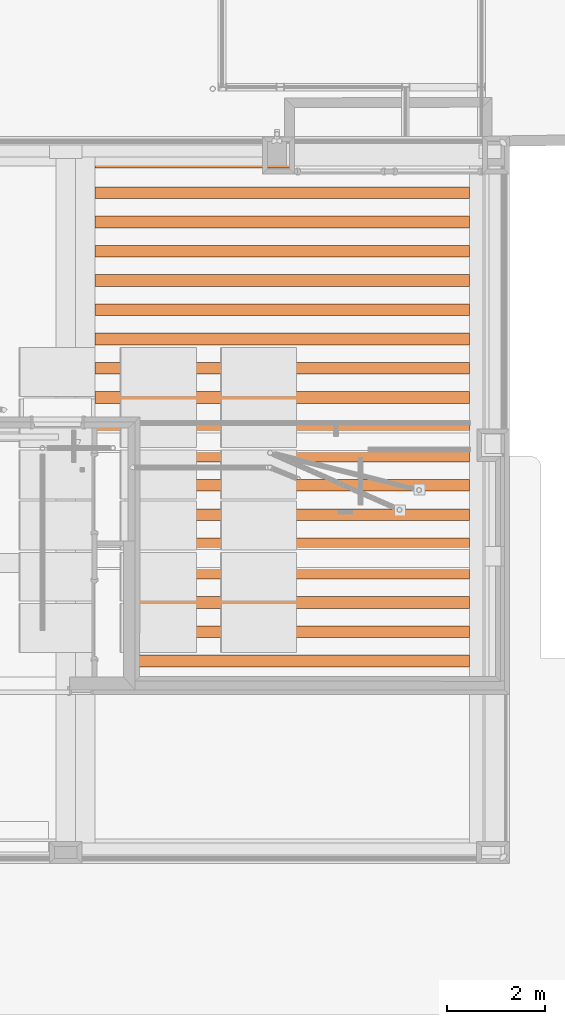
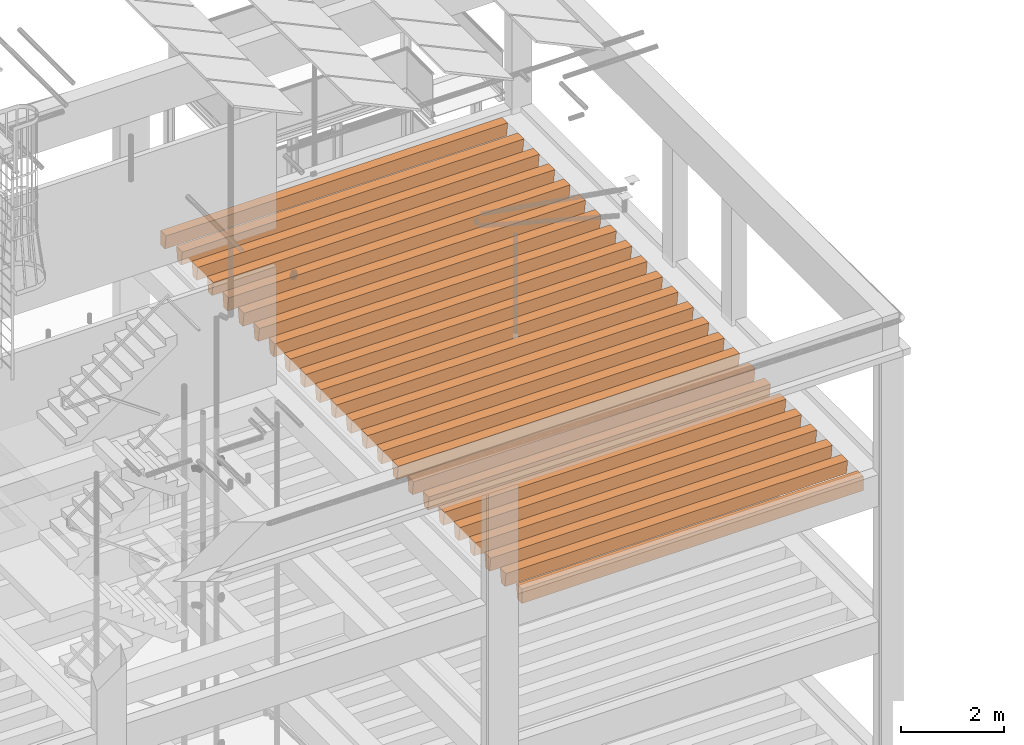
# One storey, part 106 of 106: 1 proxy.
"""IFC2X3 building model written with IfcOpenShell, lengths in metres."""

import ifcopenshell
import ifcopenshell.guid

model = None  # the IFC model being written
_history = None  # IfcOwnerHistory: only IFC2X3 demands one
_inside = {}  # id of a spatial element -> (the spatial element, [elements in it])
_under = {}  # id of a project, library or spatial element -> (it, [spatial elements below it])
_declared = {}  # id of a project -> (the project, [libraries it declares])
_typed = {}  # id of a type object -> (the type object, [elements of that type])
_made_of = {}  # id of a material, layer set ... -> (it, [elements and type objects made of it])


def new_model(schema):
    """Start an empty IFC model of exactly this schema.

    Asked for "IFC4X3", IfcOpenShell would pick the latest addendum, in which some entities
    have other attributes; the version numbers below select the first issue.
    IFC2X3 requires an IfcOwnerHistory on every rooted entity: one is made here for all.
    """
    global model, _history
    if schema == "IFC4X3":
        model = ifcopenshell.file(schema_version=(4, 3, 0, 0))
    else:
        model = ifcopenshell.file(schema=schema)
    _inside.clear()
    _under.clear()
    _declared.clear()
    _typed.clear()
    _made_of.clear()
    _history = None
    if model.schema == "IFC2X3":
        org = make("IfcOrganization", Name="unknown")
        user = make(
            "IfcPersonAndOrganization",
            ThePerson=make("IfcPerson", FamilyName="unknown"),
            TheOrganization=org,
        )
        app = make(
            "IfcApplication",
            ApplicationDeveloper=org,
            Version="unknown",
            ApplicationFullName="unknown",
            ApplicationIdentifier="unknown",
        )
        _history = make(
            "IfcOwnerHistory",
            OwningUser=user,
            OwningApplication=app,
            ChangeAction="ADDED",
            CreationDate=0,
        )
    return model


def make(cls, **values):
    """One entity of the class cls with the attributes given. An attribute that is None is left unset."""
    return model.create_entity(
        cls, **{name: value for name, value in values.items() if value is not None}
    )


def entity(cls, *values):
    """Any entity or typed value of the class cls, its attributes in the order of the schema. None: left unset."""
    e = model.create_entity(cls)
    for i, value in enumerate(values):
        if value is not None:
            e[i] = value
    return e


def rooted(cls, **values):
    """An entity with a GlobalId (a new one), such as an element, a storey or a relation."""
    return make(cls, GlobalId=ifcopenshell.guid.new(), OwnerHistory=_history, **values)


def si_unit(unit_type, name, prefix=None):
    """IfcSIUnit, for example si_unit("LENGTHUNIT", "METRE", prefix="MILLI")."""
    return make("IfcSIUnit", UnitType=unit_type, Prefix=prefix, Name=name)


def converted_unit(unit_type, name, factor, base, dimensions=None, offset=None):
    """IfcConversionBasedUnit, such as the inch: factor (a typed value) times the base unit."""
    return make(
        "IfcConversionBasedUnit"
        if offset is None
        else "IfcConversionBasedUnitWithOffset",
        ConversionOffset=offset,
        Dimensions=None
        if dimensions is None
        else entity("IfcDimensionalExponents", *dimensions),
        UnitType=unit_type,
        Name=name,
        ConversionFactor=make(
            "IfcMeasureWithUnit", ValueComponent=factor, UnitComponent=base
        ),
    )


def derived_unit(unit_type, elements):
    """IfcDerivedUnit: a product of units, each with its exponent."""
    return make(
        "IfcDerivedUnit",
        Elements=[
            make("IfcDerivedUnitElement", Unit=unit, Exponent=power)
            for unit, power in elements
        ],
        UnitType=unit_type,
    )


def money_unit(currency):
    """IfcMonetaryUnit."""
    return make("IfcMonetaryUnit", Currency=currency)


def assignment(units):
    """IfcUnitAssignment: the units of a project."""
    return None if units is None else make("IfcUnitAssignment", Units=units)


def point(xyz):
    """IfcCartesianPoint."""
    return None if xyz is None else make("IfcCartesianPoint", Coordinates=xyz)


def direction(xyz):
    """IfcDirection."""
    return None if xyz is None else make("IfcDirection", DirectionRatios=xyz)


def frame(location, z_axis=None, x_axis=None):
    """IfcAxis2Placement3D, a coordinate frame: its origin and axes. An axis left out is left unset."""
    return make(
        "IfcAxis2Placement3D",
        Location=point(location),
        Axis=direction(z_axis),
        RefDirection=direction(x_axis),
    )


def origin_with_axes():
    """The frame at (0, 0, 0) with the z axis (0, 0, 1) and the x axis (1, 0, 0) written out."""
    return frame((0.0, 0.0, 0.0), z_axis=(0.0, 0.0, 1.0), x_axis=(1.0, 0.0, 0.0))


def place(relative_to, where):
    """IfcLocalPlacement: puts the frame where relative to a parent placement (None: the world)."""
    return make(
        "IfcLocalPlacement", PlacementRelTo=relative_to, RelativePlacement=where
    )


def context(
    kind, dimensions, precision=None, world=None, true_north=None, identifier=None
):
    """IfcGeometricRepresentationContext, for example the 3D "Model" context."""
    return make(
        "IfcGeometricRepresentationContext",
        ContextIdentifier=identifier,
        ContextType=kind,
        CoordinateSpaceDimension=dimensions,
        Precision=precision,
        WorldCoordinateSystem=world,
        TrueNorth=true_north,
    )


def subcontext(parent, identifier, kind, view, scale=None):
    """IfcGeometricRepresentationSubContext, for example "Body" below "Model"."""
    return make(
        "IfcGeometricRepresentationSubContext",
        ContextIdentifier=identifier,
        ContextType=kind,
        ParentContext=parent,
        TargetScale=scale,
        TargetView=view,
    )


def project(units=None, contexts=None):
    """IfcProject with its units and contexts."""
    return rooted(
        "IfcProject",
        Name="project",
        RepresentationContexts=contexts,
        UnitsInContext=assignment(units),
    )


def spatial(cls, under=None, at=None, **own):
    """A site, building, storey or space (cls), placed at a placement, below another one or the project."""
    s = rooted(cls, ObjectPlacement=at, **own)
    if under is not None:
        _under.setdefault(under.id(), (under, []))[1].append(s)
    return s


def faces_of(points, faces, orient=None, outer=None):
    """IfcFace entities. A face is a list of loops; a loop is a list of indices into points, from 0.

    orient and outer hold one flag for each loop. By default every Orientation is true, the
    first loop of a face is its IfcFaceOuterBound and the others are IfcFaceBound.
    """
    made = []
    for i, loops in enumerate(faces):
        bounds = []
        for j, loop in enumerate(loops):
            is_outer = j == 0 if outer is None else outer[i][j]
            bounds.append(
                make(
                    "IfcFaceOuterBound" if is_outer else "IfcFaceBound",
                    Bound=make("IfcPolyLoop", Polygon=[points[k] for k in loop]),
                    Orientation=True if orient is None else orient[i][j],
                )
            )
        made.append(make("IfcFace", Bounds=bounds))
    return made


def faceted_brep(points, faces, orient=None, outer=None, voids=None):
    """IfcFacetedBrep: a solid bounded by flat faces; with voids (closed shells), ...WithVoids."""
    shared = [point(p) for p in points]
    hull = make("IfcClosedShell", CfsFaces=faces_of(shared, faces, orient, outer))
    if voids is None:
        return make("IfcFacetedBrep", Outer=hull)
    return make(
        "IfcFacetedBrepWithVoids",
        Outer=hull,
        Voids=[
            make(cls, CfsFaces=faces_of(shared, fs, o, b)) for cls, fs, o, b in voids
        ],
    )


def shape(context_of_items, identifier, shape_type, items):
    """IfcShapeRepresentation: the items that make up one representation, for example the "Body"."""
    return make(
        "IfcShapeRepresentation",
        ContextOfItems=context_of_items,
        RepresentationIdentifier=identifier,
        RepresentationType=shape_type,
        Items=items,
    )


def made_of(thing, what):
    """Note that an element or type object is made of a material, layer set ...; save() writes the relation."""
    if what is not None:
        _made_of.setdefault(what.id(), (what, []))[1].append(thing)
    return thing


def element(
    cls,
    number,
    at=None,
    inside=None,
    cuts=None,
    type_object=None,
    material=None,
    context=None,
    identifier="Body",
    shape_type=None,
    held_by="IfcProductDefinitionShape",
    body=None,
    shapes=None,
    **own,
):
    """One element of the class cls, such as IfcWall. Its Tag is "e" and its number.

    at: its placement. inside: the storey or other place that contains it. cuts: it is an
    opening in that element (IfcRelVoidsElement). A single representation is given by context,
    identifier, shape_type and body (its items); several are given by shapes. held_by: the class
    of the entity that holds the representations. save() writes the other relations.
    """
    e = rooted(cls, Tag="e%d" % number, ObjectPlacement=at, **own)
    if body is not None:
        shapes = [shape(context, identifier, shape_type, body)]
    if shapes is not None:
        e.Representation = make(held_by, Representations=shapes)
    if inside is not None:
        _inside.setdefault(inside.id(), (inside, []))[1].append(e)
    if cuts is not None:
        rooted(
            "IfcRelVoidsElement", RelatingBuildingElement=cuts, RelatedOpeningElement=e
        )
    if type_object is not None:
        _typed.setdefault(type_object.id(), (type_object, []))[1].append(e)
    return made_of(e, material)


def aggregate(whole, parts):
    """IfcRelAggregates: a whole, such as a stair, and the parts it consists of."""
    return rooted("IfcRelAggregates", RelatingObject=whole, RelatedObjects=parts)


def save(model, path):
    """Write the relations noted so far, then the file.

    IfcRelAggregates (storeys below a building ...), IfcRelContainedInSpatialStructure (elements
    in a storey), IfcRelDefinesByType, IfcRelAssociatesMaterial and IfcRelDeclares: one each for
    every whole, place, type object, material and project.
    """
    for whole, parts in _under.values():
        aggregate(whole, parts)
    for where, things in _inside.values():
        rooted(
            "IfcRelContainedInSpatialStructure",
            RelatedElements=things,
            RelatingStructure=where,
        )
    for kind, things in _typed.values():
        rooted("IfcRelDefinesByType", RelatedObjects=things, RelatingType=kind)
    for what, things in _made_of.values():
        rooted("IfcRelAssociatesMaterial", RelatedObjects=things, RelatingMaterial=what)
    for by, libraries in _declared.values():
        rooted("IfcRelDeclares", RelatingContext=by, RelatedDefinitions=libraries)
    model.write(path)


model = new_model("IFC2X3")

# Units and contexts
model_context = context("Model", 3, precision=1e-05, world=origin_with_axes(), true_north=direction((0.0, 1.0)))
body_context = subcontext(model_context, "Body", "Model", "MODEL_VIEW", scale=1.0)
ifc_project = project(units=[si_unit("LENGTHUNIT", "METRE"), si_unit("AREAUNIT", "SQUARE_METRE"), si_unit("VOLUMEUNIT", "CUBIC_METRE"), si_unit("ABSORBEDDOSEUNIT", "GRAY"), si_unit("AMOUNTOFSUBSTANCEUNIT", "MOLE"), si_unit("DOSEEQUIVALENTUNIT", "SIEVERT"), si_unit("ELECTRICCAPACITANCEUNIT", "FARAD"), si_unit("ELECTRICCHARGEUNIT", "COULOMB"), si_unit("ELECTRICCONDUCTANCEUNIT", "SIEMENS"), si_unit("ELECTRICCURRENTUNIT", "AMPERE"), si_unit("ELECTRICRESISTANCEUNIT", "OHM"), si_unit("ELECTRICVOLTAGEUNIT", "VOLT"), si_unit("ENERGYUNIT", "JOULE"), si_unit("FORCEUNIT", "NEWTON"), si_unit("FREQUENCYUNIT", "HERTZ"), si_unit("ILLUMINANCEUNIT", "LUX"), si_unit("INDUCTANCEUNIT", "HENRY"), si_unit("LUMINOUSFLUXUNIT", "LUMEN"), si_unit("LUMINOUSINTENSITYUNIT", "CANDELA"), si_unit("MAGNETICFLUXDENSITYUNIT", "TESLA"), si_unit("MAGNETICFLUXUNIT", "WEBER"), si_unit("MASSUNIT", "GRAM"), converted_unit("PLANEANGLEUNIT", "degree", entity("IfcReal", 0.0174532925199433), si_unit("PLANEANGLEUNIT", "RADIAN"), dimensions=[0, 0, 0, 0, 0, 0, 0]), si_unit("POWERUNIT", "WATT"), si_unit("PRESSUREUNIT", "PASCAL"), si_unit("RADIOACTIVITYUNIT", "BECQUEREL"), si_unit("SOLIDANGLEUNIT", "STERADIAN"), si_unit("THERMODYNAMICTEMPERATUREUNIT", "KELVIN"), si_unit("TIMEUNIT", "SECOND"), derived_unit("ACCELERATIONUNIT", [(si_unit("LENGTHUNIT", "METRE"), 1), (si_unit("TIMEUNIT", "SECOND"), -2)]), derived_unit("ANGULARVELOCITYUNIT", [(converted_unit("PLANEANGLEUNIT", "degree", entity("IfcReal", 0.0174532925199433), si_unit("PLANEANGLEUNIT", "RADIAN"), dimensions=[0, 0, 0, 0, 0, 0, 0]), 1), (si_unit("TIMEUNIT", "SECOND"), -1)]), derived_unit("CURVATUREUNIT", [(converted_unit("PLANEANGLEUNIT", "degree", entity("IfcReal", 0.0174532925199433), si_unit("PLANEANGLEUNIT", "RADIAN"), dimensions=[0, 0, 0, 0, 0, 0, 0]), 1), (si_unit("LENGTHUNIT", "METRE"), -1)]), derived_unit("DYNAMICVISCOSITYUNIT", [(si_unit("PRESSUREUNIT", "PASCAL"), 1), (si_unit("TIMEUNIT", "SECOND"), 1)]), derived_unit("HEATFLUXDENSITYUNIT", [(si_unit("POWERUNIT", "WATT"), 1), (si_unit("LENGTHUNIT", "METRE"), -2)]), derived_unit("HEATINGVALUEUNIT", [(si_unit("ENERGYUNIT", "JOULE"), 1), (si_unit("MASSUNIT", "GRAM"), -1)]), derived_unit("INTEGERCOUNTRATEUNIT", [(si_unit("TIMEUNIT", "SECOND"), -1)]), derived_unit("IONCONCENTRATIONUNIT", [(si_unit("MASSUNIT", "GRAM"), 1), (si_unit("VOLUMEUNIT", "CUBIC_METRE"), -1)]), derived_unit("ISOTHERMALMOISTURECAPACITYUNIT", [(si_unit("VOLUMEUNIT", "CUBIC_METRE"), 1), (si_unit("MASSUNIT", "GRAM"), -1)]), derived_unit("KINEMATICVISCOSITYUNIT", [(si_unit("AREAUNIT", "SQUARE_METRE"), 1), (si_unit("TIMEUNIT", "SECOND"), -1)]), derived_unit("LINEARFORCEUNIT", [(si_unit("FORCEUNIT", "NEWTON"), 1), (si_unit("LENGTHUNIT", "METRE"), -1)]), derived_unit("LINEARMOMENTUNIT", [(si_unit("FORCEUNIT", "NEWTON"), 1), (si_unit("LENGTHUNIT", "METRE"), -1)]), derived_unit("LINEARSTIFFNESSUNIT", [(si_unit("FORCEUNIT", "NEWTON"), 1), (si_unit("LENGTHUNIT", "METRE"), -1)]), derived_unit("LINEARVELOCITYUNIT", [(si_unit("LENGTHUNIT", "METRE"), 1), (si_unit("TIMEUNIT", "SECOND"), -1)]), derived_unit("LUMINOUSINTENSITYDISTRIBUTIONUNIT", [(si_unit("LUMINOUSINTENSITYUNIT", "CANDELA"), 1), (si_unit("LUMINOUSFLUXUNIT", "LUMEN"), -1)]), derived_unit("MASSDENSITYUNIT", [(si_unit("MASSUNIT", "GRAM"), 1), (si_unit("VOLUMEUNIT", "CUBIC_METRE"), -1)]), derived_unit("MASSFLOWRATEUNIT", [(si_unit("MASSUNIT", "GRAM"), 1), (si_unit("TIMEUNIT", "SECOND"), -1)]), derived_unit("MASSPERLENGTHUNIT", [(si_unit("MASSUNIT", "GRAM"), 1), (si_unit("LENGTHUNIT", "METRE"), -1)]), derived_unit("MODULUSOFELASTICITYUNIT", [(si_unit("FORCEUNIT", "NEWTON"), 1), (si_unit("AREAUNIT", "SQUARE_METRE"), -1)]), derived_unit("MODULUSOFLINEARSUBGRADEREACTIONUNIT", [(si_unit("FORCEUNIT", "NEWTON"), 1), (si_unit("LENGTHUNIT", "METRE"), -2)]), derived_unit("MODULUSOFROTATIONALSUBGRADEREACTIONUNIT", [(si_unit("FORCEUNIT", "NEWTON"), 1), (si_unit("LENGTHUNIT", "METRE"), 1)]), derived_unit("MODULUSOFSUBGRADEREACTIONUNIT", [(si_unit("FORCEUNIT", "NEWTON"), 1), (si_unit("VOLUMEUNIT", "CUBIC_METRE"), -1)]), derived_unit("MOISTUREDIFFUSIVITYUNIT", [(si_unit("VOLUMEUNIT", "CUBIC_METRE"), 1), (si_unit("TIMEUNIT", "SECOND"), -1)]), derived_unit("MOLECULARWEIGHTUNIT", [(si_unit("MASSUNIT", "GRAM"), 1), (si_unit("AMOUNTOFSUBSTANCEUNIT", "MOLE"), -1)]), derived_unit("PLANARFORCEUNIT", [(si_unit("FORCEUNIT", "NEWTON"), 1), (si_unit("LENGTHUNIT", "METRE"), -2)]), derived_unit("ROTATIONALFREQUENCYUNIT", [(si_unit("TIMEUNIT", "SECOND"), -1)]), derived_unit("ROTATIONALMASSUNIT", [(si_unit("MASSUNIT", "GRAM"), 1), (si_unit("LENGTHUNIT", "METRE"), 2)]), derived_unit("ROTATIONALSTIFFNESSUNIT", [(si_unit("FORCEUNIT", "NEWTON"), 1), (si_unit("LENGTHUNIT", "METRE"), 1), (converted_unit("PLANEANGLEUNIT", "degree", entity("IfcReal", 0.0174532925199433), si_unit("PLANEANGLEUNIT", "RADIAN"), dimensions=[0, 0, 0, 0, 0, 0, 0]), -1)]), derived_unit("SECTIONAREAINTEGRALUNIT", [(si_unit("LENGTHUNIT", "METRE"), 5)]), derived_unit("SECTIONMODULUSUNIT", [(si_unit("LENGTHUNIT", "METRE"), 3)]), derived_unit("SHEARMODULUSUNIT", [(si_unit("FORCEUNIT", "NEWTON"), 1), (si_unit("AREAUNIT", "SQUARE_METRE"), -1)]), derived_unit("SOUNDPOWERUNIT", [(si_unit("ENERGYUNIT", "JOULE"), 1), (si_unit("TIMEUNIT", "SECOND"), -1)]), derived_unit("SPECIFICHEATCAPACITYUNIT", [(si_unit("FORCEUNIT", "NEWTON"), 1), (si_unit("MASSUNIT", "GRAM"), -1), (si_unit("THERMODYNAMICTEMPERATUREUNIT", "KELVIN"), -1)]), derived_unit("TEMPERATUREGRADIENTUNIT", [(si_unit("THERMODYNAMICTEMPERATUREUNIT", "KELVIN"), 1), (si_unit("LENGTHUNIT", "METRE"), -1)]), derived_unit("THERMALADMITTANCEUNIT", [(si_unit("POWERUNIT", "WATT"), 1), (si_unit("AREAUNIT", "SQUARE_METRE"), -1), (si_unit("THERMODYNAMICTEMPERATUREUNIT", "KELVIN"), -1)]), derived_unit("THERMALCONDUCTANCEUNIT", [(si_unit("POWERUNIT", "WATT"), 1), (si_unit("LENGTHUNIT", "METRE"), -1), (si_unit("THERMODYNAMICTEMPERATUREUNIT", "KELVIN"), -1)]), derived_unit("THERMALEXPANSIONCOEFFICIENTUNIT", [(si_unit("THERMODYNAMICTEMPERATUREUNIT", "KELVIN"), -1)]), derived_unit("THERMALRESISTANCEUNIT", [(si_unit("AREAUNIT", "SQUARE_METRE"), 1), (si_unit("POWERUNIT", "WATT"), -1)]), derived_unit("THERMALTRANSMITTANCEUNIT", [(si_unit("POWERUNIT", "WATT"), 1), (si_unit("AREAUNIT", "SQUARE_METRE"), -1), (si_unit("THERMODYNAMICTEMPERATUREUNIT", "KELVIN"), -1)]), derived_unit("TORQUEUNIT", [(si_unit("FORCEUNIT", "NEWTON"), 1), (si_unit("LENGTHUNIT", "METRE"), 1)]), derived_unit("VAPORPERMEABILITYUNIT", [(si_unit("MASSUNIT", "GRAM"), 1), (si_unit("TIMEUNIT", "SECOND"), -1)]), derived_unit("VOLUMETRICFLOWRATEUNIT", [(si_unit("VOLUMEUNIT", "CUBIC_METRE"), 1), (si_unit("TIMEUNIT", "SECOND"), -1)]), derived_unit("WARPINGCONSTANTUNIT", [(si_unit("LENGTHUNIT", "METRE"), 6)]), derived_unit("WARPINGMOMENTUNIT", [(si_unit("FORCEUNIT", "NEWTON"), 1), (si_unit("LENGTHUNIT", "METRE"), 2)]), money_unit("GBP")], contexts=[model_context])

# Site, building, storey
site_placement = place(None, origin_with_axes())
site = spatial("IfcSite", under=ifc_project, at=site_placement, Name="Site", CompositionType="ELEMENT")
building_placement = place(site_placement, origin_with_axes())
building = spatial("IfcBuilding", under=site, at=building_placement, Name="Building01", CompositionType="ELEMENT")
storey_placement = place(building_placement, origin_with_axes())
storey = spatial("IfcBuildingStorey", under=building, at=storey_placement, Name="GF", CompositionType="ELEMENT", Elevation=0.0)

# Proxy
proxy_placement = place(storey_placement, frame((22.321432, 7.45, 11.79), z_axis=(0.0, 0.0, 1.0), x_axis=(1.0, 0.0, 0.0)))
element("IfcBuildingElementProxy", 1, at=proxy_placement, inside=storey, context=body_context, shape_type="Brep", body=[
    faceted_brep([(-3.838569, -7.03, -0.17), (3.838568, -7.03, -0.17), (3.838568, -7.03, 0.17), (-3.838569, -7.03, 0.17), (-3.838569, -6.858571, -0.17), (3.838568, -6.858571, -0.17), (-3.838569, -6.81, 0.17), (3.838568, -6.81, 0.17)], [[[0, 1, 2, 3]], [[4, 5, 1, 0]], [[6, 7, 5, 4]], [[3, 2, 7, 6]], [[1, 5, 7, 2]], [[3, 6, 4, 0]]]),
    faceted_brep([(-3.838569, 1.428572, -0.17), (3.838568, 1.428572, -0.17), (3.838568, 1.38, 0.17), (-3.838569, 1.38, 0.17), (-3.838569, 1.571429, -0.17), (3.838568, 1.571429, -0.17), (-3.838569, 1.62, 0.17), (3.838568, 1.62, 0.17)], [[[0, 1, 2, 3]], [[4, 5, 1, 0]], [[6, 7, 5, 4]], [[3, 2, 7, 6]], [[1, 5, 7, 2]], [[3, 6, 4, 0]]]),
    faceted_brep([(-3.838569, 0.828572, -0.17), (3.838568, 0.828572, -0.17), (3.838568, 0.78, 0.17), (-3.838569, 0.78, 0.17), (-3.838569, 0.971429, -0.17), (3.838568, 0.971429, -0.17), (-3.838569, 1.02, 0.17), (3.838568, 1.02, 0.17)], [[[0, 1, 2, 3]], [[4, 5, 1, 0]], [[6, 7, 5, 4]], [[3, 2, 7, 6]], [[1, 5, 7, 2]], [[3, 6, 4, 0]]]),
    faceted_brep([(-3.838569, -0.371428, -0.17), (3.838568, -0.371428, -0.17), (3.838568, -0.42, 0.17), (-3.838569, -0.42, 0.17), (-3.838569, -0.228571, -0.17), (3.838568, -0.228571, -0.17), (-3.838569, -0.18, 0.17), (3.838568, -0.18, 0.17)], [[[0, 1, 2, 3]], [[4, 5, 1, 0]], [[6, 7, 5, 4]], [[3, 2, 7, 6]], [[1, 5, 7, 2]], [[3, 6, 4, 0]]]),
    faceted_brep([(-3.838569, -0.971428, -0.17), (3.838568, -0.971428, -0.17), (3.838568, -1.02, 0.17), (-3.838569, -1.02, 0.17), (-3.838569, -0.828571, -0.17), (3.838568, -0.828571, -0.17), (-3.838569, -0.78, 0.17), (3.838568, -0.78, 0.17)], [[[0, 1, 2, 3]], [[4, 5, 1, 0]], [[6, 7, 5, 4]], [[3, 2, 7, 6]], [[1, 5, 7, 2]], [[3, 6, 4, 0]]]),
    faceted_brep([(-3.838569, 0.228572, -0.17), (3.838568, 0.228572, -0.17), (3.838568, 0.18, 0.17), (-3.838569, 0.18, 0.17), (-3.838569, 0.371429, -0.17), (3.838568, 0.371429, -0.17), (-3.838569, 0.42, 0.17), (3.838568, 0.42, 0.17)], [[[0, 1, 2, 3]], [[4, 5, 1, 0]], [[6, 7, 5, 4]], [[3, 2, 7, 6]], [[1, 5, 7, 2]], [[3, 6, 4, 0]]]),
    faceted_brep([(-3.838569, -2.171428, -0.17), (3.838568, -2.171428, -0.17), (3.838568, -2.22, 0.17), (-3.838569, -2.22, 0.17), (-3.838569, -2.028571, -0.17), (3.838568, -2.028571, -0.17), (-3.838569, -1.98, 0.17), (3.838568, -1.98, 0.17)], [[[0, 1, 2, 3]], [[4, 5, 1, 0]], [[6, 7, 5, 4]], [[3, 2, 7, 6]], [[1, 5, 7, 2]], [[3, 6, 4, 0]]]),
    faceted_brep([(-3.838569, -2.771428, -0.17), (3.838568, -2.771428, -0.17), (3.838568, -2.82, 0.17), (-3.838569, -2.82, 0.17), (-3.838569, -2.628571, -0.17), (3.838568, -2.628571, -0.17), (-3.838569, -2.58, 0.17), (3.838568, -2.58, 0.17)], [[[0, 1, 2, 3]], [[4, 5, 1, 0]], [[6, 7, 5, 4]], [[3, 2, 7, 6]], [[1, 5, 7, 2]], [[3, 6, 4, 0]]]),
    faceted_brep([(-3.838569, -1.571428, -0.17), (3.838568, -1.571428, -0.17), (3.838568, -1.62, 0.17), (-3.838569, -1.62, 0.17), (-3.838569, -1.428571, -0.17), (3.838568, -1.428571, -0.17), (-3.838569, -1.38, 0.17), (3.838568, -1.38, 0.17)], [[[0, 1, 2, 3]], [[4, 5, 1, 0]], [[6, 7, 5, 4]], [[3, 2, 7, 6]], [[1, 5, 7, 2]], [[3, 6, 4, 0]]]),
    faceted_brep([(-3.838569, -3.971428, -0.17), (3.838568, -3.971428, -0.17), (3.838568, -4.02, 0.17), (-3.838569, -4.02, 0.17), (-3.838569, -3.828571, -0.17), (3.838568, -3.828571, -0.17), (-3.838569, -3.78, 0.17), (3.838568, -3.78, 0.17)], [[[0, 1, 2, 3]], [[4, 5, 1, 0]], [[6, 7, 5, 4]], [[3, 2, 7, 6]], [[1, 5, 7, 2]], [[3, 6, 4, 0]]]),
    faceted_brep([(-3.838569, -4.571428, -0.17), (3.838568, -4.571428, -0.17), (3.838568, -4.62, 0.17), (-3.838569, -4.62, 0.17), (-3.838569, -4.428571, -0.17), (3.838568, -4.428571, -0.17), (-3.838569, -4.38, 0.17), (3.838568, -4.38, 0.17)], [[[0, 1, 2, 3]], [[4, 5, 1, 0]], [[6, 7, 5, 4]], [[3, 2, 7, 6]], [[1, 5, 7, 2]], [[3, 6, 4, 0]]]),
    faceted_brep([(-3.838569, -3.371428, -0.17), (3.838568, -3.371428, -0.17), (3.838568, -3.42, 0.17), (-3.838569, -3.42, 0.17), (-3.838569, -3.228571, -0.17), (3.838568, -3.228571, -0.17), (-3.838569, -3.18, 0.17), (3.838568, -3.18, 0.17)], [[[0, 1, 2, 3]], [[4, 5, 1, 0]], [[6, 7, 5, 4]], [[3, 2, 7, 6]], [[1, 5, 7, 2]], [[3, 6, 4, 0]]]),
    faceted_brep([(-3.838569, -5.771428, -0.17), (3.838568, -5.771428, -0.17), (3.838568, -5.82, 0.17), (-3.838569, -5.82, 0.17), (-3.838569, -5.628571, -0.17), (3.838568, -5.628571, -0.17), (-3.838569, -5.58, 0.17), (3.838568, -5.58, 0.17)], [[[0, 1, 2, 3]], [[4, 5, 1, 0]], [[6, 7, 5, 4]], [[3, 2, 7, 6]], [[1, 5, 7, 2]], [[3, 6, 4, 0]]]),
    faceted_brep([(-3.838569, -6.371428, -0.17), (3.838568, -6.371428, -0.17), (3.838568, -6.42, 0.17), (-3.838569, -6.42, 0.17), (-3.838569, -6.228571, -0.17), (3.838568, -6.228571, -0.17), (-3.838569, -6.18, 0.17), (3.838568, -6.18, 0.17)], [[[0, 1, 2, 3]], [[4, 5, 1, 0]], [[6, 7, 5, 4]], [[3, 2, 7, 6]], [[1, 5, 7, 2]], [[3, 6, 4, 0]]]),
    faceted_brep([(-3.838569, -5.171428, -0.17), (3.838568, -5.171428, -0.17), (3.838568, -5.22, 0.17), (-3.838569, -5.22, 0.17), (-3.838569, -5.028571, -0.17), (3.838568, -5.028571, -0.17), (-3.838569, -4.98, 0.17), (3.838568, -4.98, 0.17)], [[[0, 1, 2, 3]], [[4, 5, 1, 0]], [[6, 7, 5, 4]], [[3, 2, 7, 6]], [[1, 5, 7, 2]], [[3, 6, 4, 0]]]),
    faceted_brep([(-3.838569, 7.03, 0.17), (3.838568, 7.03, 0.17), (3.838568, 7.03, -0.17), (-3.838569, 7.03, -0.17), (-3.838569, 6.81, 0.17), (3.838568, 6.81, 0.17), (-3.838569, 6.858572, -0.17), (3.838568, 6.858572, -0.17)], [[[0, 1, 2, 3]], [[4, 5, 1, 0]], [[6, 7, 5, 4]], [[3, 2, 7, 6]], [[1, 5, 7, 2]], [[3, 6, 4, 0]]]),
    faceted_brep([(-3.838569, 5.028572, -0.17), (3.838568, 5.028572, -0.17), (3.838568, 4.98, 0.17), (-3.838569, 4.98, 0.17), (-3.838569, 5.171429, -0.17), (3.838568, 5.171429, -0.17), (-3.838569, 5.22, 0.17), (3.838568, 5.22, 0.17)], [[[0, 1, 2, 3]], [[4, 5, 1, 0]], [[6, 7, 5, 4]], [[3, 2, 7, 6]], [[1, 5, 7, 2]], [[3, 6, 4, 0]]]),
    faceted_brep([(-3.838569, 4.428572, -0.17), (3.838568, 4.428572, -0.17), (3.838568, 4.38, 0.17), (-3.838569, 4.38, 0.17), (-3.838569, 4.571429, -0.17), (3.838568, 4.571429, -0.17), (-3.838569, 4.62, 0.17), (3.838568, 4.62, 0.17)], [[[0, 1, 2, 3]], [[4, 5, 1, 0]], [[6, 7, 5, 4]], [[3, 2, 7, 6]], [[1, 5, 7, 2]], [[3, 6, 4, 0]]]),
    faceted_brep([(-3.838569, 6.228572, -0.17), (3.838568, 6.228572, -0.17), (3.838568, 6.18, 0.17), (-3.838569, 6.18, 0.17), (-3.838569, 6.371429, -0.17), (3.838568, 6.371429, -0.17), (-3.838569, 6.42, 0.17), (3.838568, 6.42, 0.17)], [[[0, 1, 2, 3]], [[4, 5, 1, 0]], [[6, 7, 5, 4]], [[3, 2, 7, 6]], [[1, 5, 7, 2]], [[3, 6, 4, 0]]]),
    faceted_brep([(-3.838569, 5.628572, -0.17), (3.838568, 5.628572, -0.17), (3.838568, 5.58, 0.17), (-3.838569, 5.58, 0.17), (-3.838569, 5.771429, -0.17), (3.838568, 5.771429, -0.17), (-3.838569, 5.82, 0.17), (3.838568, 5.82, 0.17)], [[[0, 1, 2, 3]], [[4, 5, 1, 0]], [[6, 7, 5, 4]], [[3, 2, 7, 6]], [[1, 5, 7, 2]], [[3, 6, 4, 0]]]),
    faceted_brep([(-3.838569, 3.228572, -0.17), (3.838568, 3.228572, -0.17), (3.838568, 3.18, 0.17), (-3.838569, 3.18, 0.17), (-3.838569, 3.371429, -0.17), (3.838568, 3.371429, -0.17), (-3.838569, 3.42, 0.17), (3.838568, 3.42, 0.17)], [[[0, 1, 2, 3]], [[4, 5, 1, 0]], [[6, 7, 5, 4]], [[3, 2, 7, 6]], [[1, 5, 7, 2]], [[3, 6, 4, 0]]]),
    faceted_brep([(-3.838569, 2.628572, -0.17), (3.838568, 2.628572, -0.17), (3.838568, 2.58, 0.17), (-3.838569, 2.58, 0.17), (-3.838569, 2.771429, -0.17), (3.838568, 2.771429, -0.17), (-3.838569, 2.82, 0.17), (3.838568, 2.82, 0.17)], [[[0, 1, 2, 3]], [[4, 5, 1, 0]], [[6, 7, 5, 4]], [[3, 2, 7, 6]], [[1, 5, 7, 2]], [[3, 6, 4, 0]]]),
    faceted_brep([(-3.838569, 3.828572, -0.17), (3.838568, 3.828572, -0.17), (3.838568, 3.78, 0.17), (-3.838569, 3.78, 0.17), (-3.838569, 3.971429, -0.17), (3.838568, 3.971429, -0.17), (-3.838569, 4.02, 0.17), (3.838568, 4.02, 0.17)], [[[0, 1, 2, 3]], [[4, 5, 1, 0]], [[6, 7, 5, 4]], [[3, 2, 7, 6]], [[1, 5, 7, 2]], [[3, 6, 4, 0]]]),
    faceted_brep([(-3.838569, 2.028572, -0.17), (3.838568, 2.028572, -0.17), (3.838568, 1.98, 0.17), (-3.838569, 1.98, 0.17), (-3.838569, 2.171429, -0.17), (3.838568, 2.171429, -0.17), (-3.838569, 2.22, 0.17), (3.838568, 2.22, 0.17)], [[[0, 1, 2, 3]], [[4, 5, 1, 0]], [[6, 7, 5, 4]], [[3, 2, 7, 6]], [[1, 5, 7, 2]], [[3, 6, 4, 0]]]),
])

save(model, "model.ifc")
